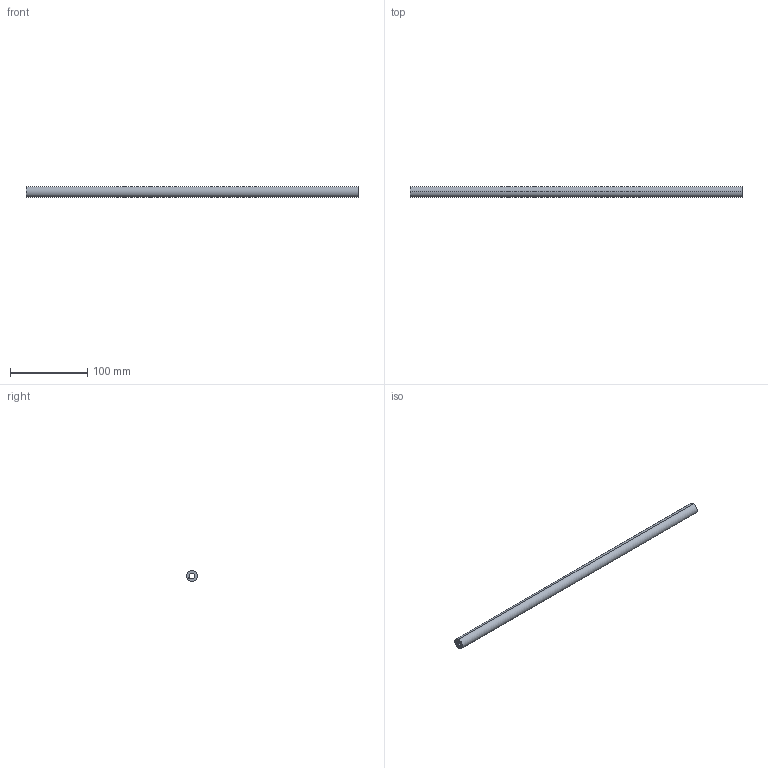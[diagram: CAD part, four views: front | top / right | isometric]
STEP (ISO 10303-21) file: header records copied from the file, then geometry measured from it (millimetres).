
FILE_DESCRIPTION (( 'STEP AP214' ), '1' );
FILE_NAME ('SyncronisationsstangeNova_Pro_KAB_0550_KS16.step', '2009-11-24T08:53:15', ( 'Grass' ), ( 'Grass GmbH' ), 'SwSTEP 2.0', 'SolidWorks 2009', '' );
FILE_SCHEMA (( 'AUTOMOTIVE_DESIGN' ));
Length unit declared in the file: millimetre
Products named in the file (1): SyncronisationsstangeNova_Pro_KAB_0550_KS16
Bounding box: 429 x 14 x 14 mm (x, y, z)
Volume: 46387.6 mm3; surface area: 30016 mm2
Topology: 1 solids, 1 shells, 15 faces, 39 edges, 26 vertices
Faces by surface type: cylinder 11, plane 4
Entity records: 513 total; most frequent: DIRECTION 93, CARTESIAN_POINT 81, ORIENTED_EDGE 78, EDGE_CURVE 39, AXIS2_PLACEMENT_3D 38, VERTEX_POINT 26, CIRCLE 22, VECTOR 17
